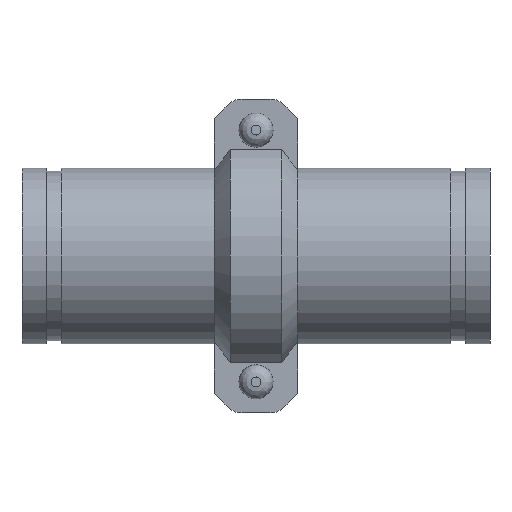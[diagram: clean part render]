
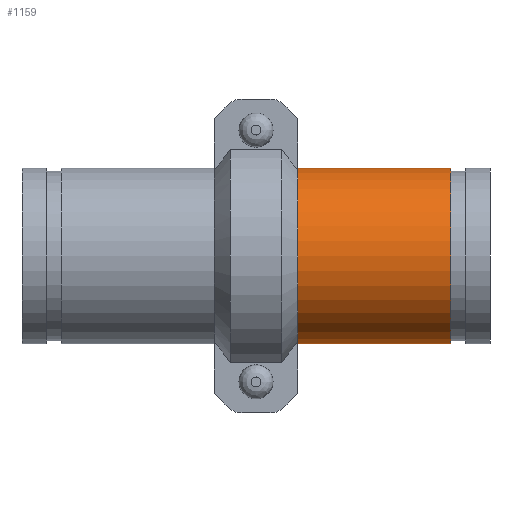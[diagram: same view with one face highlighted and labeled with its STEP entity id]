
A CAD part, front view. The second image highlights one B-rep face of the part: STEP entity #1159.
In plain terms, the highlighted cylindrical face has radius 57.15 mm (diameter 114.3 mm), a full revolution.
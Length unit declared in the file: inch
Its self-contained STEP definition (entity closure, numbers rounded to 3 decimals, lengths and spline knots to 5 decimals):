
#48=LINE('',#1822,#133);
#133=VECTOR('',#1481,2.25);
#218=CYLINDRICAL_SURFACE('',#1314,2.25);
#259=FACE_OUTER_BOUND('',#328,.T.);
#328=EDGE_LOOP('',(#765,#766,#767,#768,#769,#770));
#414=CIRCLE('',#1312,2.25);
#415=CIRCLE('',#1313,2.25);
#416=CIRCLE('',#1315,2.25);
#417=CIRCLE('',#1316,2.25);
#478=VERTEX_POINT('',#1813);
#479=VERTEX_POINT('',#1814);
#480=VERTEX_POINT('',#1818);
#481=VERTEX_POINT('',#1819);
#591=EDGE_CURVE('',#478,#479,#414,.T.);
#592=EDGE_CURVE('',#479,#478,#415,.T.);
#593=EDGE_CURVE('',#480,#481,#416,.T.);
#594=EDGE_CURVE('',#481,#480,#417,.T.);
#595=EDGE_CURVE('',#481,#479,#48,.T.);
#765=ORIENTED_EDGE('',*,*,#593,.F.);
#766=ORIENTED_EDGE('',*,*,#594,.F.);
#767=ORIENTED_EDGE('',*,*,#595,.T.);
#768=ORIENTED_EDGE('',*,*,#592,.T.);
#769=ORIENTED_EDGE('',*,*,#591,.T.);
#770=ORIENTED_EDGE('',*,*,#595,.F.);
#1159=ADVANCED_FACE('',(#259),#218,.T.);
#1312=AXIS2_PLACEMENT_3D('',#1815,#1471,#1472);
#1313=AXIS2_PLACEMENT_3D('',#1816,#1473,#1474);
#1314=AXIS2_PLACEMENT_3D('',#1817,#1475,#1476);
#1315=AXIS2_PLACEMENT_3D('',#1820,#1477,#1478);
#1316=AXIS2_PLACEMENT_3D('',#1821,#1479,#1480);
#1471=DIRECTION('center_axis',(-1.,0.,0.));
#1472=DIRECTION('ref_axis',(0.,0.,1.));
#1473=DIRECTION('center_axis',(-1.,0.,0.));
#1474=DIRECTION('ref_axis',(0.,0.,1.));
#1475=DIRECTION('center_axis',(-1.,0.,0.));
#1476=DIRECTION('ref_axis',(0.,1.,0.));
#1477=DIRECTION('center_axis',(-1.,0.,0.));
#1478=DIRECTION('ref_axis',(0.,0.,1.));
#1479=DIRECTION('center_axis',(-1.,0.,0.));
#1480=DIRECTION('ref_axis',(0.,0.,1.));
#1481=DIRECTION('',(1.,0.,0.));
#1813=CARTESIAN_POINT('',(1.9925,2.25,0.));
#1814=CARTESIAN_POINT('',(1.9925,-2.25,0.));
#1815=CARTESIAN_POINT('Origin',(1.9925,0.,0.));
#1816=CARTESIAN_POINT('Origin',(1.9925,0.,0.));
#1817=CARTESIAN_POINT('Origin',(0.,0.,
0.));
#1818=CARTESIAN_POINT('',(-1.9925,2.25,0.));
#1819=CARTESIAN_POINT('',(-1.9925,-2.25,0.));
#1820=CARTESIAN_POINT('Origin',(-1.9925,0.,0.));
#1821=CARTESIAN_POINT('Origin',(-1.9925,0.,0.));
#1822=CARTESIAN_POINT('',(0.,-2.25,0.));
